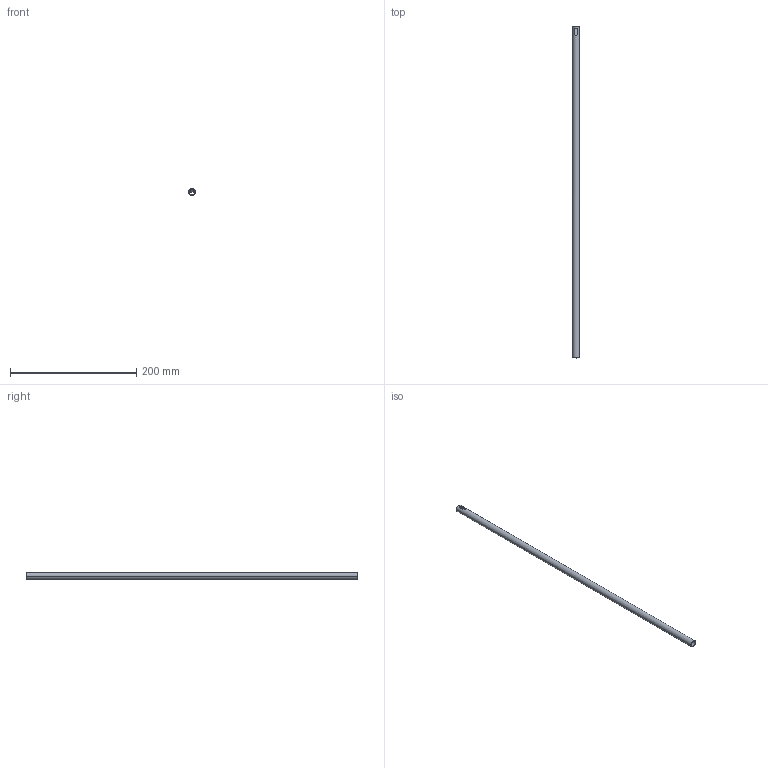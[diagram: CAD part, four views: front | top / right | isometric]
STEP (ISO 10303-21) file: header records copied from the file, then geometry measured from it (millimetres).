
FILE_DESCRIPTION (( 'STEP AP214' ), '1' );
FILE_NAME ('Relingsrohr_2S-Rundrel_P760604300_550.step', '2010-09-07T12:59:25', ( 'grass' ), ( '' ), 'SwSTEP 2.0', 'SolidWorks 2010', '' );
FILE_SCHEMA (( 'AUTOMOTIVE_DESIGN' ));
Length unit declared in the file: millimetre
Products named in the file (1): Relingsrohr_2S-Rundrel_P760604300_550
Bounding box: 11 x 526 x 11 mm (x, y, z)
Volume: 16522.5 mm3; surface area: 33152.9 mm2
Topology: 1 solids, 1 shells, 14 faces, 34 edges, 22 vertices
Faces by surface type: plane 10, cylinder 4
Entity records: 476 total; most frequent: CARTESIAN_POINT 77, DIRECTION 72, ORIENTED_EDGE 68, EDGE_CURVE 34, AXIS2_PLACEMENT_3D 25, LINE 22, VECTOR 22, VERTEX_POINT 22
